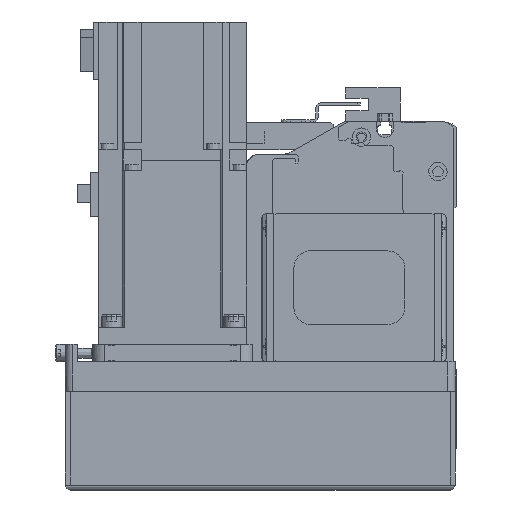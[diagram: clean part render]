
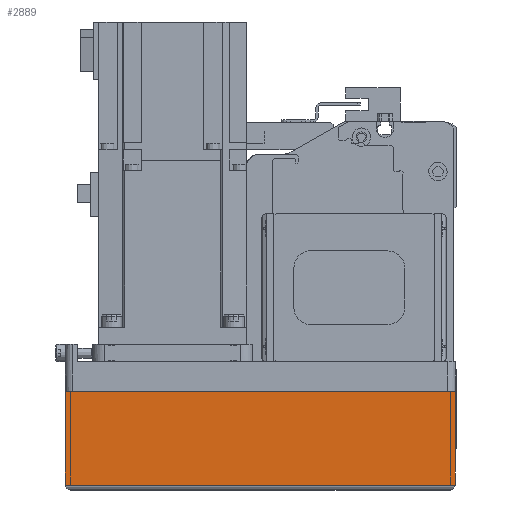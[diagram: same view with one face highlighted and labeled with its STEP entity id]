
A CAD part, left-side view. The second image highlights one B-rep face of the part: STEP entity #2889.
In plain terms, the highlighted planar face has unit normal (-1, 0, 0) as drawn and (0, -1, 0) by its records, which use the part's own axes.
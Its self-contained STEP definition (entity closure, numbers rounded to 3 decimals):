
#2889 = ADVANCED_FACE( '', ( #6362 ), #6363, .T. );
#6362 = FACE_OUTER_BOUND( '', #10300, .T. );
#6363 = PLANE( '', #10301 );
#10300 = EDGE_LOOP( '', ( #18448, #18449, #18450, #18451 ) );
#10301 = AXIS2_PLACEMENT_3D( '', #18452, #18453, #18454 );
#18448 = ORIENTED_EDGE( '', *, *, #25061, .F. );
#18449 = ORIENTED_EDGE( '', *, *, #25062, .F. );
#18450 = ORIENTED_EDGE( '', *, *, #25063, .T. );
#18451 = ORIENTED_EDGE( '', *, *, #25064, .T. );
#18452 = CARTESIAN_POINT( '', ( -158., -39., -12.1 ) );
#18453 = DIRECTION( '', ( 0., -1., 0. ) );
#18454 = DIRECTION( '', ( 0., 0., -1. ) );
#25061 = EDGE_CURVE( '', #30854, #27532, #30855, .T. );
#25062 = EDGE_CURVE( '', #26356, #30854, #30856, .T. );
#25063 = EDGE_CURVE( '', #26356, #28640, #30857, .T. );
#25064 = EDGE_CURVE( '', #28640, #27532, #30858, .T. );
#26356 = VERTEX_POINT( '', #32637 );
#27532 = VERTEX_POINT( '', #34419 );
#28640 = VERTEX_POINT( '', #36496 );
#30854 = VERTEX_POINT( '', #40036 );
#30855 = LINE( '', #40037, #40038 );
#30856 = LINE( '', #40039, #40040 );
#30857 = LINE( '', #40041, #40042 );
#30858 = LINE( '', #40043, #40044 );
#32637 = CARTESIAN_POINT( '', ( -158., -39., -12.1 ) );
#34419 = CARTESIAN_POINT( '', ( 0., -39., -50. ) );
#36496 = CARTESIAN_POINT( '', ( -158., -39., -50. ) );
#40036 = CARTESIAN_POINT( '', ( 0., -39., -12.1 ) );
#40037 = CARTESIAN_POINT( '', ( 0., -39., -12.1 ) );
#40038 = VECTOR( '', #45058, 1000. );
#40039 = CARTESIAN_POINT( '', ( -158., -39., -12.1 ) );
#40040 = VECTOR( '', #45059, 1000. );
#40041 = CARTESIAN_POINT( '', ( -158., -39., -12.1 ) );
#40042 = VECTOR( '', #45060, 1000. );
#40043 = CARTESIAN_POINT( '', ( -158., -39., -50. ) );
#40044 = VECTOR( '', #45061, 1000. );
#45058 = DIRECTION( '', ( 0., 0., -1. ) );
#45059 = DIRECTION( '', ( 1., 0., 0. ) );
#45060 = DIRECTION( '', ( 0., 0., -1. ) );
#45061 = DIRECTION( '', ( 1., 0., 0. ) );
